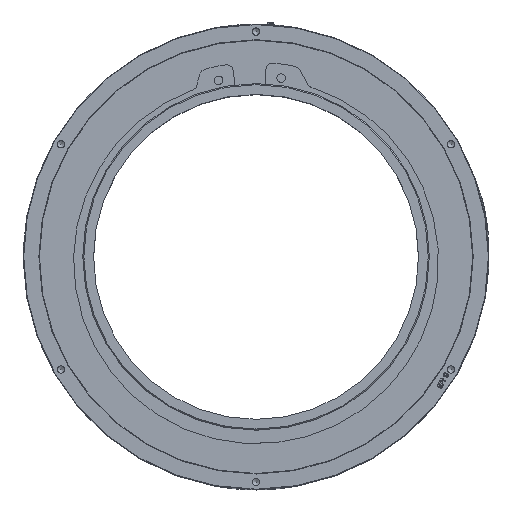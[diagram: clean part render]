
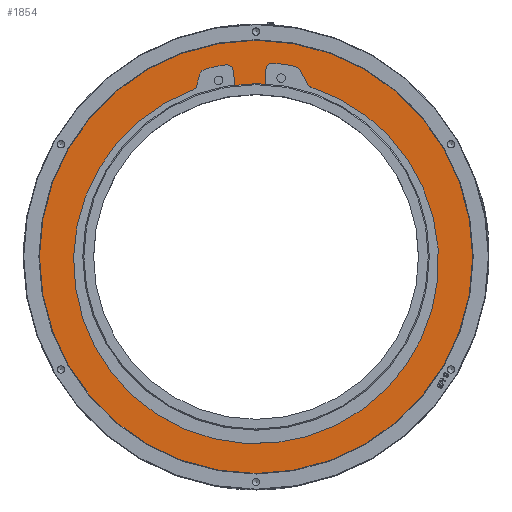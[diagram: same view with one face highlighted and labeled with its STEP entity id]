
A CAD part, top view. The second image highlights one B-rep face of the part: STEP entity #1854.
In plain terms, the highlighted planar face has unit normal (0, 0, 1).
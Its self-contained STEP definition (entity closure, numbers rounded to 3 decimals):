
#208=FACE_BOUND('',#4745,.T.);
#209=FACE_BOUND('',#4746,.T.);
#749=CIRCLE('',#23090,155.);
#751=CIRCLE('',#23093,200.);
#752=CIRCLE('',#23094,5.);
#753=CIRCLE('',#23095,6.);
#754=CIRCLE('',#23096,183.5);
#755=CIRCLE('',#23097,8.);
#756=CIRCLE('',#23098,6.);
#757=CIRCLE('',#23099,168.5);
#758=CIRCLE('',#23100,6.);
#759=CIRCLE('',#23101,8.);
#760=CIRCLE('',#23102,183.5);
#761=CIRCLE('',#23103,6.);
#762=CIRCLE('',#23104,5.);
#1854=ADVANCED_FACE('',(#208,#209),#2981,.T.);
#2981=PLANE('',#23105);
#4745=EDGE_LOOP('',(#8903));
#4746=EDGE_LOOP('',(#8904,#8905,#8906,#8907,#8908,#8909,#8910,#8911,#8912,
#8913,#8914,#8915,#8916,#8917,#8918,#8919));
#5979=LINE('',#40914,#6611);
#5980=LINE('',#40922,#6612);
#5981=LINE('',#40930,#6613);
#5982=LINE('',#40938,#6614);
#6611=VECTOR('',#24662,1.);
#6612=VECTOR('',#24669,1.);
#6613=VECTOR('',#24676,1.);
#6614=VECTOR('',#24683,1.);
#8903=ORIENTED_EDGE('',*,*,#17386,.F.);
#8904=ORIENTED_EDGE('',*,*,#17382,.T.);
#8905=ORIENTED_EDGE('',*,*,#17387,.T.);
#8906=ORIENTED_EDGE('',*,*,#17388,.F.);
#8907=ORIENTED_EDGE('',*,*,#17389,.T.);
#8908=ORIENTED_EDGE('',*,*,#17390,.F.);
#8909=ORIENTED_EDGE('',*,*,#17391,.T.);
#8910=ORIENTED_EDGE('',*,*,#17392,.T.);
#8911=ORIENTED_EDGE('',*,*,#17393,.T.);
#8912=ORIENTED_EDGE('',*,*,#17394,.F.);
#8913=ORIENTED_EDGE('',*,*,#17395,.T.);
#8914=ORIENTED_EDGE('',*,*,#17396,.T.);
#8915=ORIENTED_EDGE('',*,*,#17397,.T.);
#8916=ORIENTED_EDGE('',*,*,#17398,.F.);
#8917=ORIENTED_EDGE('',*,*,#17399,.T.);
#8918=ORIENTED_EDGE('',*,*,#17400,.T.);
#8919=ORIENTED_EDGE('',*,*,#17401,.T.);
#14785=VERTEX_POINT('',#40902);
#14786=VERTEX_POINT('',#40903);
#14789=VERTEX_POINT('',#40911);
#14790=VERTEX_POINT('',#40913);
#14791=VERTEX_POINT('',#40915);
#14792=VERTEX_POINT('',#40917);
#14793=VERTEX_POINT('',#40919);
#14794=VERTEX_POINT('',#40921);
#14795=VERTEX_POINT('',#40923);
#14796=VERTEX_POINT('',#40925);
#14797=VERTEX_POINT('',#40927);
#14798=VERTEX_POINT('',#40929);
#14799=VERTEX_POINT('',#40931);
#14800=VERTEX_POINT('',#40933);
#14801=VERTEX_POINT('',#40935);
#14802=VERTEX_POINT('',#40937);
#14803=VERTEX_POINT('',#40939);
#17382=EDGE_CURVE('',#14785,#14786,#749,.T.);
#17386=EDGE_CURVE('',#14789,#14789,#751,.T.);
#17387=EDGE_CURVE('',#14786,#14790,#752,.T.);
#17388=EDGE_CURVE('',#14791,#14790,#5979,.T.);
#17389=EDGE_CURVE('',#14791,#14792,#753,.T.);
#17390=EDGE_CURVE('',#14793,#14792,#754,.T.);
#17391=EDGE_CURVE('',#14793,#14794,#755,.T.);
#17392=EDGE_CURVE('',#14794,#14795,#5980,.T.);
#17393=EDGE_CURVE('',#14795,#14796,#756,.T.);
#17394=EDGE_CURVE('',#14797,#14796,#757,.T.);
#17395=EDGE_CURVE('',#14797,#14798,#758,.T.);
#17396=EDGE_CURVE('',#14798,#14799,#5981,.T.);
#17397=EDGE_CURVE('',#14799,#14800,#759,.T.);
#17398=EDGE_CURVE('',#14801,#14800,#760,.T.);
#17399=EDGE_CURVE('',#14801,#14802,#761,.T.);
#17400=EDGE_CURVE('',#14802,#14803,#5982,.T.);
#17401=EDGE_CURVE('',#14803,#14785,#762,.T.);
#23090=AXIS2_PLACEMENT_3D('',#40901,#24650,#24651);
#23093=AXIS2_PLACEMENT_3D('',#40910,#24658,#24659);
#23094=AXIS2_PLACEMENT_3D('',#40912,#24660,#24661);
#23095=AXIS2_PLACEMENT_3D('',#40916,#24663,#24664);
#23096=AXIS2_PLACEMENT_3D('',#40918,#24665,#24666);
#23097=AXIS2_PLACEMENT_3D('',#40920,#24667,#24668);
#23098=AXIS2_PLACEMENT_3D('',#40924,#24670,#24671);
#23099=AXIS2_PLACEMENT_3D('',#40926,#24672,#24673);
#23100=AXIS2_PLACEMENT_3D('',#40928,#24674,#24675);
#23101=AXIS2_PLACEMENT_3D('',#40932,#24677,#24678);
#23102=AXIS2_PLACEMENT_3D('',#40934,#24679,#24680);
#23103=AXIS2_PLACEMENT_3D('',#40936,#24681,#24682);
#23104=AXIS2_PLACEMENT_3D('',#40940,#24684,#24685);
#23105=AXIS2_PLACEMENT_3D('',#40941,#24686,#24687);
#24650=DIRECTION('',(0.,0.,-1.));
#24651=DIRECTION('',(1.,0.,0.));
#24658=DIRECTION('',(0.,0.,-1.));
#24659=DIRECTION('',(1.,0.,0.));
#24660=DIRECTION('',(0.,0.,-1.));
#24661=DIRECTION('',(-1.,0.,0.));
#24662=DIRECTION('',(-0.052,-0.999,0.));
#24663=DIRECTION('',(0.,0.,-1.));
#24664=DIRECTION('',(-1.,0.,0.));
#24665=DIRECTION('',(0.,0.,1.));
#24666=DIRECTION('',(-1.,0.,0.));
#24667=DIRECTION('',(0.,0.,-1.));
#24668=DIRECTION('',(-1.,0.,0.));
#24669=DIRECTION('',(0.454,-0.891,0.));
#24670=DIRECTION('',(0.,0.,1.));
#24671=DIRECTION('',(-1.,0.,0.));
#24672=DIRECTION('',(0.,0.,1.));
#24673=DIRECTION('',(-1.,0.,0.));
#24674=DIRECTION('',(0.,0.,1.));
#24675=DIRECTION('',(-1.,0.,0.));
#24676=DIRECTION('',(0.225,0.974,0.));
#24677=DIRECTION('',(0.,0.,-1.));
#24678=DIRECTION('',(-1.,0.,0.));
#24679=DIRECTION('',(0.,0.,1.));
#24680=DIRECTION('',(-1.,0.,0.));
#24681=DIRECTION('',(0.,0.,-1.));
#24682=DIRECTION('',(-1.,0.,0.));
#24683=DIRECTION('',(0.122,-0.993,0.));
#24684=DIRECTION('',(0.,0.,-1.));
#24685=DIRECTION('',(-1.,0.,0.));
#24686=DIRECTION('',(0.,0.,1.));
#24687=DIRECTION('',(1.,0.,0.));
#40901=CARTESIAN_POINT('',(0.,0.,152.5));
#40902=CARTESIAN_POINT('',(-23.688,153.179,152.5));
#40903=CARTESIAN_POINT('',(12.945,154.458,152.5));
#40910=CARTESIAN_POINT('',(0.,0.,152.5));
#40911=CARTESIAN_POINT('',(200.,0.,152.5));
#40912=CARTESIAN_POINT('',(13.363,159.441,152.5));
#40913=CARTESIAN_POINT('',(8.37,159.703,152.5));
#40914=CARTESIAN_POINT('',(-0.209,-3.989,152.5));
#40915=CARTESIAN_POINT('',(9.076,173.173,152.5));
#40916=CARTESIAN_POINT('',(15.067,172.859,152.5));
#40917=CARTESIAN_POINT('',(15.577,178.838,152.5));
#40918=CARTESIAN_POINT('',(0.,-4.,152.5));
#40919=CARTESIAN_POINT('',(35.383,176.056,152.5));
#40920=CARTESIAN_POINT('',(33.841,168.206,152.5));
#40921=CARTESIAN_POINT('',(40.969,171.838,152.5));
#40922=CARTESIAN_POINT('',(39.226,175.258,152.5));
#40923=CARTESIAN_POINT('',(47.159,159.69,152.5));
#40924=CARTESIAN_POINT('',(52.505,162.414,152.5));
#40925=CARTESIAN_POINT('',(50.699,156.692,152.5));
#40926=CARTESIAN_POINT('',(0.,-4.,152.5));
#40927=CARTESIAN_POINT('',(-58.32,154.086,152.5));
#40928=CARTESIAN_POINT('',(-60.397,159.715,152.5));
#40929=CARTESIAN_POINT('',(-54.55,158.365,152.5));
#40930=CARTESIAN_POINT('',(-51.364,172.165,152.5));
#40931=CARTESIAN_POINT('',(-52.435,167.527,152.5));
#40932=CARTESIAN_POINT('',(-44.64,165.728,152.5));
#40933=CARTESIAN_POINT('',(-46.675,173.465,152.5));
#40934=CARTESIAN_POINT('',(0.,-4.,152.5));
#40935=CARTESIAN_POINT('',(-28.009,177.35,152.5));
#40936=CARTESIAN_POINT('',(-27.093,171.42,152.5));
#40937=CARTESIAN_POINT('',(-21.138,172.151,152.5));
#40938=CARTESIAN_POINT('',(0.484,-3.941,152.5));
#40939=CARTESIAN_POINT('',(-19.49,158.73,152.5));
#40940=CARTESIAN_POINT('',(-24.452,158.12,152.5));
#40941=CARTESIAN_POINT('',(0.,0.,152.5));
